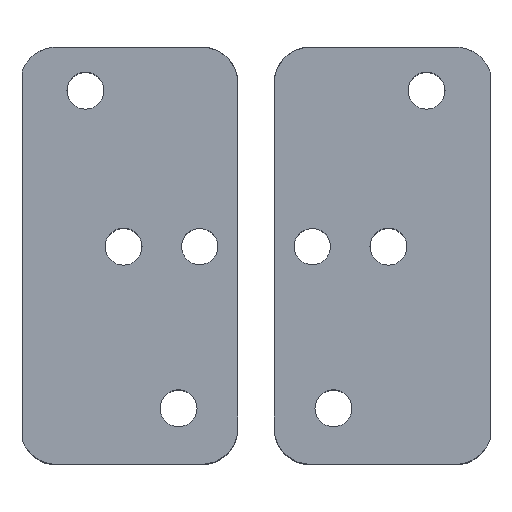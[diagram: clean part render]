
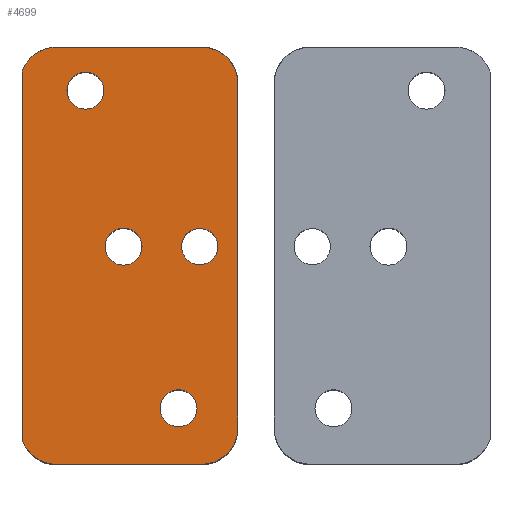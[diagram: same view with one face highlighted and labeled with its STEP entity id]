
A CAD part, top view. The second image highlights one B-rep face of the part: STEP entity #4699.
In plain terms, the highlighted planar face has unit normal (0, 0, 1).
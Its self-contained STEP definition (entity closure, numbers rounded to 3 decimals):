
#189=LINE('',#7166,#651);
#214=LINE('',#7216,#676);
#304=LINE('',#7459,#766);
#368=LINE('',#7670,#830);
#651=VECTOR('',#5442,1000.);
#676=VECTOR('',#5473,1000.);
#766=VECTOR('',#5689,1000.);
#830=VECTOR('',#5909,1000.);
#1143=FACE_BOUND('',#1568,.T.);
#1144=FACE_BOUND('',#1569,.T.);
#1145=FACE_BOUND('',#1570,.T.);
#1146=FACE_BOUND('',#1571,.T.);
#1291=FACE_OUTER_BOUND('',#1567,.T.);
#1567=EDGE_LOOP('',(#3677,#3678,#3679,#3680,#3681,#3682,#3683,#3684));
#1568=EDGE_LOOP('',(#3685));
#1569=EDGE_LOOP('',(#3686));
#1570=EDGE_LOOP('',(#3687));
#1571=EDGE_LOOP('',(#3688));
#1754=CIRCLE('',#4910,5.);
#1783=CIRCLE('',#5003,5.);
#1784=CIRCLE('',#5011,5.);
#1787=CIRCLE('',#5024,2.5);
#1788=CIRCLE('',#5026,2.55);
#1791=CIRCLE('',#5049,2.55);
#1792=CIRCLE('',#5051,2.55);
#1795=CIRCLE('',#5060,5.);
#1940=VERTEX_POINT('',#7163);
#1941=VERTEX_POINT('',#7165);
#1959=VERTEX_POINT('',#7204);
#1963=VERTEX_POINT('',#7214);
#2034=VERTEX_POINT('',#7456);
#2035=VERTEX_POINT('',#7458);
#2067=VERTEX_POINT('',#7569);
#2073=VERTEX_POINT('',#7591);
#2076=VERTEX_POINT('',#7611);
#2077=VERTEX_POINT('',#7615);
#2083=VERTEX_POINT('',#7662);
#2084=VERTEX_POINT('',#7666);
#2410=EDGE_CURVE('',#1940,#1941,#189,.T.);
#2431=EDGE_CURVE('',#1940,#1959,#1754,.T.);
#2436=EDGE_CURVE('',#1963,#1959,#214,.T.);
#2552=EDGE_CURVE('',#2035,#2034,#304,.T.);
#2601=EDGE_CURVE('',#2067,#1963,#1783,.T.);
#2613=EDGE_CURVE('',#2035,#2073,#1784,.T.);
#2621=EDGE_CURVE('',#2076,#2076,#1787,.T.);
#2622=EDGE_CURVE('',#2077,#2077,#1788,.T.);
#2644=EDGE_CURVE('',#2083,#2083,#1791,.T.);
#2646=EDGE_CURVE('',#2084,#2084,#1792,.T.);
#2647=EDGE_CURVE('',#2073,#2067,#368,.T.);
#2657=EDGE_CURVE('',#2034,#1941,#1795,.T.);
#3677=ORIENTED_EDGE('',*,*,#2410,.F.);
#3678=ORIENTED_EDGE('',*,*,#2431,.T.);
#3679=ORIENTED_EDGE('',*,*,#2436,.F.);
#3680=ORIENTED_EDGE('',*,*,#2601,.F.);
#3681=ORIENTED_EDGE('',*,*,#2647,.F.);
#3682=ORIENTED_EDGE('',*,*,#2613,.F.);
#3683=ORIENTED_EDGE('',*,*,#2552,.T.);
#3684=ORIENTED_EDGE('',*,*,#2657,.T.);
#3685=ORIENTED_EDGE('',*,*,#2621,.F.);
#3686=ORIENTED_EDGE('',*,*,#2622,.F.);
#3687=ORIENTED_EDGE('',*,*,#2646,.F.);
#3688=ORIENTED_EDGE('',*,*,#2644,.F.);
#4485=PLANE('',#5059);
#4699=ADVANCED_FACE('',(#1291,#1143,#1144,#1145,#1146),#4485,.T.);
#4910=AXIS2_PLACEMENT_3D('',#7206,#5465,#5466);
#5003=AXIS2_PLACEMENT_3D('',#7571,#5777,#5778);
#5011=AXIS2_PLACEMENT_3D('',#7592,#5800,#5801);
#5024=AXIS2_PLACEMENT_3D('',#7613,#5831,#5832);
#5026=AXIS2_PLACEMENT_3D('',#7616,#5835,#5836);
#5049=AXIS2_PLACEMENT_3D('',#7664,#5900,#5901);
#5051=AXIS2_PLACEMENT_3D('',#7668,#5905,#5906);
#5059=AXIS2_PLACEMENT_3D('',#7688,#5929,#5930);
#5060=AXIS2_PLACEMENT_3D('',#7689,#5931,#5932);
#5442=DIRECTION('',(0.,-1.,0.));
#5465=DIRECTION('center_axis',(0.,0.,1.));
#5466=DIRECTION('ref_axis',(1.,0.,0.));
#5473=DIRECTION('',(1.,0.,0.));
#5689=DIRECTION('',(1.,0.,0.));
#5777=DIRECTION('center_axis',(0.,0.,-1.));
#5778=DIRECTION('ref_axis',(-1.,0.,0.));
#5800=DIRECTION('center_axis',(0.,0.,-1.));
#5801=DIRECTION('ref_axis',(-1.,0.,0.));
#5831=DIRECTION('center_axis',(0.,0.,1.));
#5832=DIRECTION('ref_axis',(-1.,0.,0.));
#5835=DIRECTION('center_axis',(0.,0.,1.));
#5836=DIRECTION('ref_axis',(1.,0.,0.));
#5900=DIRECTION('center_axis',(0.,0.,1.));
#5901=DIRECTION('ref_axis',(1.,0.,0.));
#5905=DIRECTION('center_axis',(0.,0.,1.));
#5906=DIRECTION('ref_axis',(1.,0.,0.));
#5909=DIRECTION('',(0.,1.,0.));
#5929=DIRECTION('center_axis',(0.,0.,1.));
#5930=DIRECTION('ref_axis',(1.,0.,0.));
#5931=DIRECTION('center_axis',(0.,0.,1.));
#5932=DIRECTION('ref_axis',(1.,0.,0.));
#7163=CARTESIAN_POINT('',(45.,23.75,-5.));
#7165=CARTESIAN_POINT('',(45.,-23.75,-5.));
#7166=CARTESIAN_POINT('',(45.,18.5,-5.));
#7204=CARTESIAN_POINT('',(40.,28.75,-5.));
#7206=CARTESIAN_POINT('Origin',(40.,23.75,-5.));
#7214=CARTESIAN_POINT('',(20.,28.75,-5.));
#7216=CARTESIAN_POINT('',(28.722,28.75,-5.));
#7456=CARTESIAN_POINT('',(40.,-28.75,-5.));
#7458=CARTESIAN_POINT('',(20.,-28.75,-5.));
#7459=CARTESIAN_POINT('',(28.722,-28.75,-5.));
#7569=CARTESIAN_POINT('',(15.25,25.311,-5.));
#7571=CARTESIAN_POINT('Origin',(20.,23.75,-5.));
#7591=CARTESIAN_POINT('',(15.25,-25.311,-5.));
#7592=CARTESIAN_POINT('Origin',(20.,-23.75,-5.));
#7611=CARTESIAN_POINT('',(42.25,1.25,-5.));
#7613=CARTESIAN_POINT('Origin',(39.75,1.25,-5.));
#7615=CARTESIAN_POINT('',(26.7,1.25,-5.));
#7616=CARTESIAN_POINT('Origin',(29.25,1.25,-5.));
#7662=CARTESIAN_POINT('',(39.375,-21.033,-5.));
#7664=CARTESIAN_POINT('Origin',(36.825,-21.033,-5.));
#7666=CARTESIAN_POINT('',(26.55,22.75,-5.));
#7668=CARTESIAN_POINT('Origin',(24.,22.75,-5.));
#7670=CARTESIAN_POINT('',(15.25,28.333,-5.));
#7688=CARTESIAN_POINT('Origin',(15.,0.,-5.));
#7689=CARTESIAN_POINT('Origin',(40.,-23.75,-5.));
